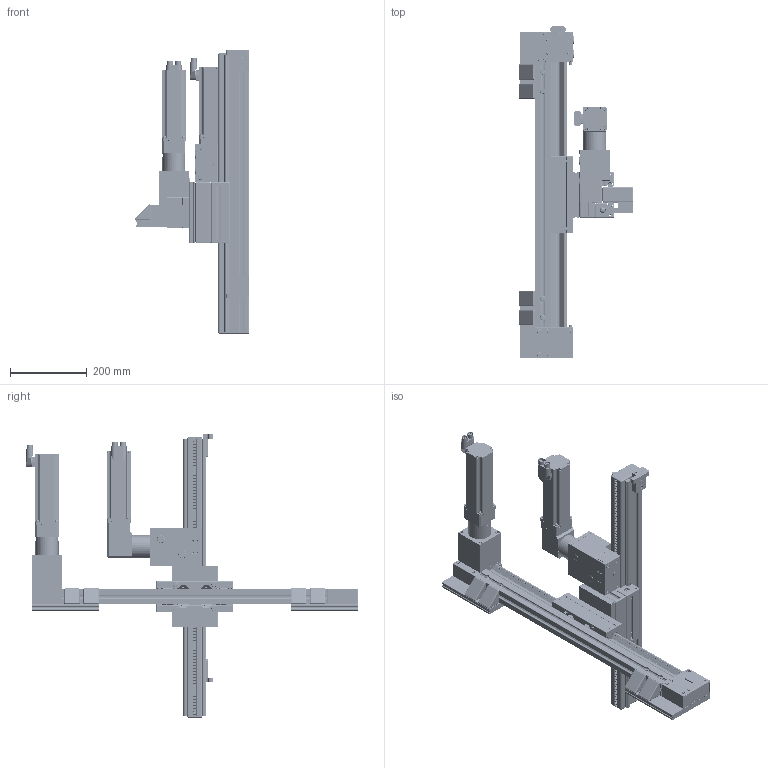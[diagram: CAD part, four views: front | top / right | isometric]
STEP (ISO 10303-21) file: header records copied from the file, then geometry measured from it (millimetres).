
FILE_DESCRIPTION(/* description */ ('Unknown'),/* implementation_level */ '2;1');
FILE_NAME(/* name */ '10012964-1',/* time_stamp */ '2019-06-26T12:01:42+02:00',/* author */ ('Unknown'),/* organization */ ('Unknown'),/* preprocessor_version */ 'ST-DEVELOPER v16.7',/* originating_system */ 'DEX',/* authorisation */ $);
FILE_SCHEMA (('AUTOMOTIVE_DESIGN {1 0 10303 214 3 1 1}'));
Products named in the file (77): 10012964-1; Y-Achse; Lineareinheit KRF 8 80x40 ZR, Antriebsseite rechts _ 0064866 - 450 - 
225 - V4_oa_0; Profil 8 80x40 KRF - 690 - V4_oa_1; Lineareinheit KRF 8 80x40 ZR, Antriebsseite rechts _ 0064866 - 450 - 
V4; Zahnriemenantrieb KRF 8 40 - 0 - V4; Zahnriemenumlenkung_KRF_8_40_-_0063900_; Schlitten_8_200x80_-_AT5_KRF_-_0063895_; Zahnriemen R25 AT10 - 730 - V4; Lineareinheit KRF 8 80x40 ZR HUB _ 0064372 - 450 - Lineareinheit KRF 
8 80x40 ZR, Antriebsseite rechts; Antriebssatz KRF 8 ZR AP-WP 60 _ 0067331 - V1; Abdeckkappe 8 D15, grau _ 0049255; Zentrierring_D32_D48_-_0064122; Kupplungsgehaeuse_KRF_8_80x80_-_0067352; Adapterplatte_KRF_8_80x80_-_0067351; Zylinderschraube_DIN_912_M6x50_-_8000086_ANTR; Ausgleichskupplung_D50_D14_-_0067621 - V1; Antriebssatz KRF 8 ZR AP-WP 60 _ 0067331; Zylinderschraube_DIN_912_M6x16_-_0065509_ANTR; Zylinderschraube_DIN_912_M5x12_-_8000459_ANTR; Getriebe AP 60-7 _ 0066613; Motor SE 60-150-3-60-AK-B _ 0068850_mit_Schrauben; Schraube_M3x10_mit_innen-torx; Motor SE 60-150-3-60-AK-B _ 0068850_KL10012964; Zylinderschraube DIN 912 M4x35, verzinkt _ 8000781 - V1; Winkelsatz 8 40x40, grau _ 0067011 - V2; Senkschraube_M3x5; Adapterplatte X-Y-Achse; Adapterplattenprofil 160x16 N5 _ 0044483 - 175 mm_oa_2; Z-Achse; Lineareinheit LRE 8 D10 80x40 ZS K leicht _ 0067991-400-200-0_KL10012
964; Profil 8 80x40 leicht LRE _ 0002634 - 722 mm; Wellenklemmprofil 8 D10 _ 0044203 - 722 mm; Welle D10 _ 0040109 - 722 mm; Zahnstange 8 Segment 80 K, schwarz _ 0067154; Schlitten_LRE_8_D10_160x120_-_0067991; ABDECKKAPPE 8 160X40 _ 0026539; Doppellagereinheit 8 D10 e _ 0044214 - V1; Doppellagereinheit 8 D10 z _ 0044215 - V1; Profil 8 160x40 _ 0026523-0067991 ...
Assembly tree (188 placements, depth 5):
  10012964-1
    Y-Achse
      Lineareinheit KRF 8 80x40 ZR, Antriebsseite rechts _ 0064866 - 450 - 
225 - V4_oa_0
        Profil 8 80x40 KRF - 690 - V4_oa_1
        Lineareinheit KRF 8 80x40 ZR, Antriebsseite rechts _ 0064866 - 450 - 
V4
        Zahnriemenantrieb KRF 8 40 - 0 - V4
        Zahnriemenumlenkung_KRF_8_40_-_0063900_
        Schlitten_8_200x80_-_AT5_KRF_-_0063895_
        Zahnriemen R25 AT10 - 730 - V4
        Lineareinheit KRF 8 80x40 ZR HUB _ 0064372 - 450 - Lineareinheit KRF 
8 80x40 ZR, Antriebsseite rechts
      Antriebssatz KRF 8 ZR AP-WP 60 _ 0067331 - V1
        Abdeckkappe 8 D15, grau _ 0049255  x2
        Zentrierring_D32_D48_-_0064122
        Kupplungsgehaeuse_KRF_8_80x80_-_0067352
        Adapterplatte_KRF_8_80x80_-_0067351
        Zylinderschraube_DIN_912_M6x50_-_8000086_ANTR  x4
        Ausgleichskupplung_D50_D14_-_0067621 - V1
        Antriebssatz KRF 8 ZR AP-WP 60 _ 0067331
        Zylinderschraube_DIN_912_M6x16_-_0065509_ANTR  x4
        Zylinderschraube_DIN_912_M5x12_-_8000459_ANTR  x4
      Getriebe AP 60-7 _ 0066613
      Motor SE 60-150-3-60-AK-B _ 0068850_mit_Schrauben
        Schraube_M3x10_mit_innen-torx  x8
        Motor SE 60-150-3-60-AK-B _ 0068850_KL10012964
        Zylinderschraube DIN 912 M4x35, verzinkt _ 8000781 - V1  x4
      Winkelsatz 8 40x40, grau _ 0067011 - V2  x4
    Senkschraube_M3x5  x8
    Adapterplatte X-Y-Achse  x2
      Adapterplattenprofil 160x16 N5 _ 0044483 - 175 mm_oa_2
    Z-Achse
      Lineareinheit LRE 8 D10 80x40 ZS K leicht _ 0067991-400-200-0_KL10012
964
        Profil 8 80x40 leicht LRE _ 0002634 - 722 mm
        Wellenklemmprofil 8 D10 _ 0044203 - 722 mm  x2
        Welle D10 _ 0040109 - 722 mm  x2
        Zahnstange 8 Segment 80 K, schwarz _ 0067154  x8
        Schlitten_LRE_8_D10_160x120_-_0067991
          Schlitten_LRE_8_D10_160x120_-_0067991
          ABDECKKAPPE 8 160X40 _ 0026539  x2
          Doppellagereinheit 8 D10 e _ 0044214 - V1
          Doppellagereinheit 8 D10 z _ 0044215 - V1
          Profil 8 160x40 _ 0026523-0067991
          Abstreif-und_Schmiersystem_8_D10_-_0044223 - 140  x2
        Zahnstange 8 Endstück K_0067946-LineareinheitZS-400_KL10012964_01
        Lineareinheit LRE 8 D10 80x40 ZS K leicht _ 0067991 - 400
        Zahnstange 8 Antrieb _ 0062169 - 0
        Lineareinheit LRE 8 D10 80x40 ZS K leicht Hub _ 0067993 - 400 - 400
        Abdeckkappe 8 80x40 _ 0002602  x2
        Schlittenanschlag_LRE_8_-_0068650_LINKS
          Schlittenanschlag_8_Traeger_00068649_0068650
          Schlittenanschlag_8_Anschlag_00068648_0068650
          Zylinderschraube_DIN6912_M6x20_00066000_0068650  x4
          Nutenstein_8_St_2xM6-36_0064451_0068650
        Schlittenanschlag_LRE_8_-_0068650_RECHTS
          Schlittenanschlag_8_Traeger_00068649_0068650
          Schlittenanschlag_8_Anschlag_00068648_0068650
          Zylinderschraube_DIN6912_M6x20_00066000_0068650  x4
          Nutenstein_8_St_2xM6-36_0064451_0068650
        Kegelkopfschraube_-_M5_x_22-+-00062128_-  x2
          Kegelkopfschraube_-_M5_x_22-+-00062128_-
        Halbrundschraube M8x10, verzinkt _ 8000017 - 1  x4
Bounding box: 298.04 x 864.35 x 738 mm (x, y, z)
Volume: 8527352.8 mm3; surface area: 2643320.9 mm2
Topology: 179 solids, 195 shells, 6885 faces, 17385 edges, 11291 vertices
Faces by surface type: plane 3676, cylinder 2392, cone 477, torus 240, sphere 62, bspline 38
Full cylindrical faces by diameter (mm): 1 x42, 2.459 x32, 2.5 x8, 3 x28, 3.242 x16, 3.5 x4, 4 x28, 4.134 x24, 4.2 x4, 4.5 x8, 4.7 x4, 4.917 x66, 5 x58, 5.4 x4, 5.5 x28, 5.6 x2, 6 x72, 6.2 x4, 6.3 x2, 6.4 x28, 6.5 x4, 6.6 x8, 6.72 x8, 6.8 x36, 6.802 x4, 7 x18, 8 x40, 8.2 x8, 8.4 x4, 8.5 x18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
Entity records: 148166 total; most frequent: CARTESIAN_POINT 24987, DIRECTION 22926, ORIENTED_EDGE 20410, EDGE_CURVE 10205, AXIS2_PLACEMENT_3D 8477, VERTEX_POINT 7186, FACE_BOUND 6201, EDGE_LOOP 6187
